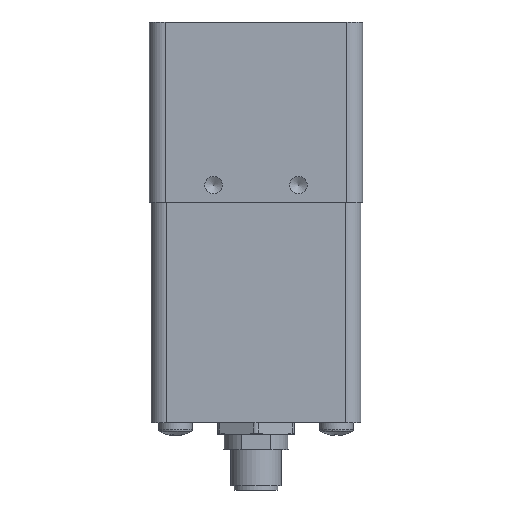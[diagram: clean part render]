
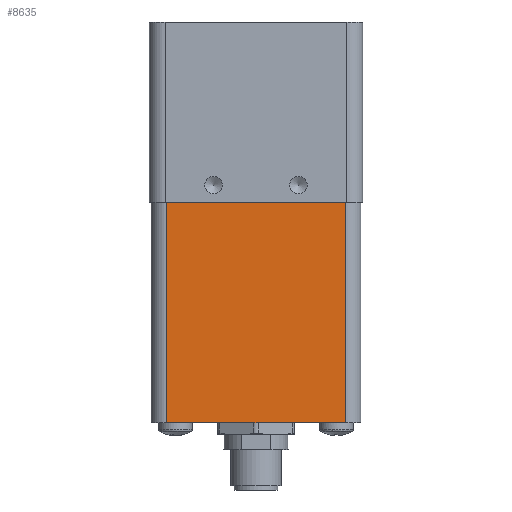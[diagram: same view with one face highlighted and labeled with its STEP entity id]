
A CAD part, front view. The second image highlights one B-rep face of the part: STEP entity #8635.
In plain terms, the highlighted planar face has unit normal (0, -1, 0).
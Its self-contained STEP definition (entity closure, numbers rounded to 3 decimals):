
#6007=CARTESIAN_POINT('',(4.175,0.425,-20.5));
#6008=VERTEX_POINT('',#6007);
#6016=CARTESIAN_POINT('',(46.175,0.425,-20.5));
#6017=VERTEX_POINT('',#6016);
#6018=CARTESIAN_POINT('',(4.175,0.425,-20.5));
#6019=DIRECTION('',(1.0,0.0,0.0));
#6020=VECTOR('',#6019,42.0);
#6021=LINE('',#6018,#6020);
#6022=EDGE_CURVE('',#6008,#6017,#6021,.T.);
#6083=CARTESIAN_POINT('',(46.175,0.425,-72.5));
#6084=VERTEX_POINT('',#6083);
#6092=CARTESIAN_POINT('',(4.175,0.425,-72.5));
#6093=VERTEX_POINT('',#6092);
#6094=CARTESIAN_POINT('',(4.175,0.425,-72.5));
#6095=DIRECTION('',(1.0,0.0,0.0));
#6096=VECTOR('',#6095,42.0);
#6097=LINE('',#6094,#6096);
#6098=EDGE_CURVE('',#6093,#6084,#6097,.T.);
#6306=CARTESIAN_POINT('',(4.175,0.425,-72.5));
#6307=DIRECTION('',(0.0,0.0,1.0));
#6308=VECTOR('',#6307,52.);
#6309=LINE('',#6306,#6308);
#6310=EDGE_CURVE('',#6093,#6008,#6309,.T.);
#8614=CARTESIAN_POINT('',(46.175,0.425,-20.5));
#8615=DIRECTION('',(0.0,0.0,-1.0));
#8616=VECTOR('',#8615,52.);
#8617=LINE('',#8614,#8616);
#8618=EDGE_CURVE('',#6017,#6084,#8617,.T.);
#8624=CARTESIAN_POINT('',(0.425,0.425,-69.4));
#8625=DIRECTION('',(0.0,-1.0,0.0));
#8626=DIRECTION('',(0.0,0.0,-1.0));
#8627=AXIS2_PLACEMENT_3D('',#8624,#8625,#8626);
#8628=PLANE('',#8627);
#8629=ORIENTED_EDGE('',*,*,#8618,.F.);
#8630=ORIENTED_EDGE('',*,*,#6022,.F.);
#8631=ORIENTED_EDGE('',*,*,#6310,.F.);
#8632=ORIENTED_EDGE('',*,*,#6098,.T.);
#8633=EDGE_LOOP('',(#8629,#8630,#8631,#8632));
#8634=FACE_OUTER_BOUND('',#8633,.T.);
#8635=ADVANCED_FACE('',(#8634),#8628,.T.);
